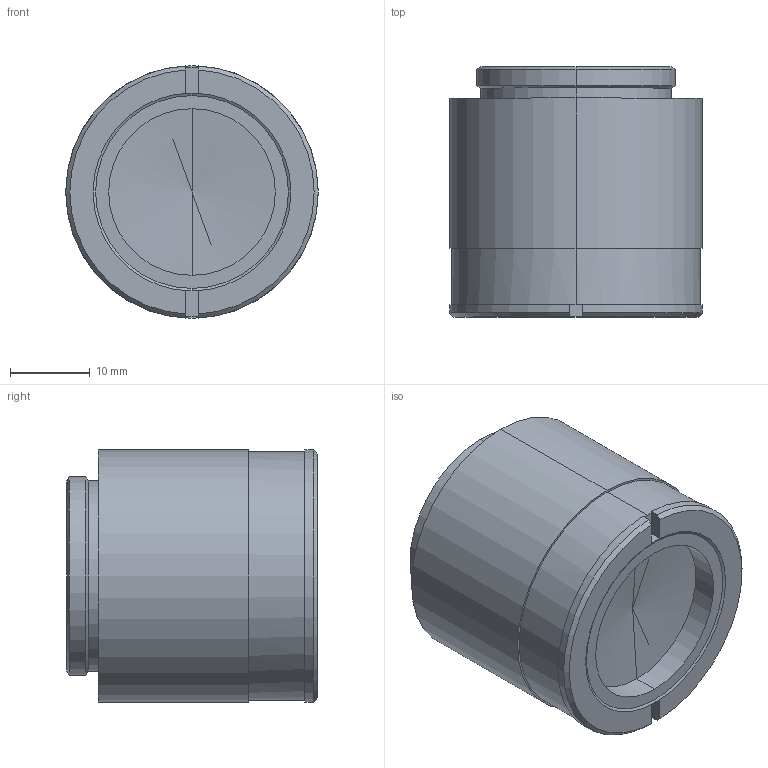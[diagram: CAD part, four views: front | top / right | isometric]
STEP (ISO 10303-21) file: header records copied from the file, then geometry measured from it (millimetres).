
FILE_DESCRIPTION (( 'STEP AP214' ), '1' );
FILE_NAME ('35-00-02-000 OUTLINE.STEP', '2012-11-15T21:32:36', ( '' ), ( '' ), 'SwSTEP 2.0', 'SolidWorks 2011', '' );
FILE_SCHEMA (( 'AUTOMOTIVE_DESIGN' ));
Length unit declared in the file: millimetre
Products named in the file (1): 35-00-02-000 OUTLINE
Bounding box: 31.75 x 31.44 x 31.75 mm (x, y, z)
Volume: 20867.2 mm3; surface area: 5185.5 mm2
Topology: 1 solids, 1 shells, 46 faces, 104 edges, 62 vertices
Faces by surface type: plane 18, cylinder 14, cone 14
Entity records: 1374 total; most frequent: DIRECTION 236, CARTESIAN_POINT 233, ORIENTED_EDGE 200, EDGE_CURVE 100, AXIS2_PLACEMENT_3D 93, VERTEX_POINT 62, EDGE_LOOP 52, LINE 50
